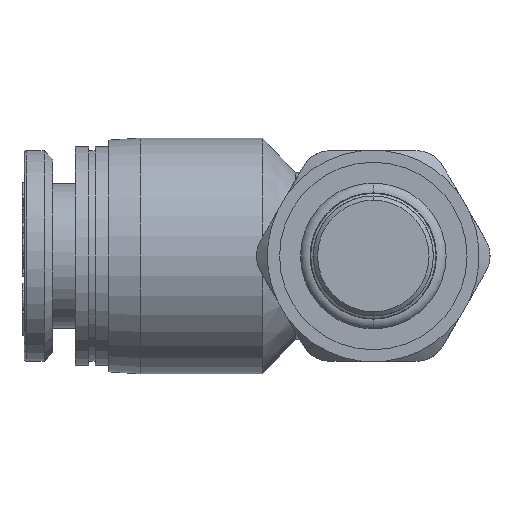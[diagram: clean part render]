
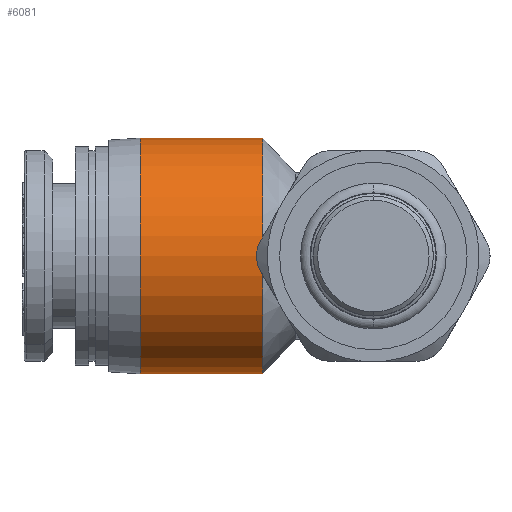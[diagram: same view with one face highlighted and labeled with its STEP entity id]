
A CAD part, front view. The second image highlights one B-rep face of the part: STEP entity #6081.
In plain terms, the highlighted cylindrical face has radius 5.6 mm (diameter 11.2 mm), a partial arc.
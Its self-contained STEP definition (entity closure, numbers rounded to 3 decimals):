
#61 = CARTESIAN_POINT ( 'NONE',  ( 5.8, 0., -5.6 ) ) ;
#285 = DIRECTION ( 'NONE',  ( -1., 0., 0. ) ) ;
#516 = EDGE_CURVE ( 'NONE', #691, #5740, #764, .T. ) ;
#519 = EDGE_CURVE ( 'NONE', #6969, #2885, #6622, .T. ) ;
#691 = VERTEX_POINT ( 'NONE', #61 ) ;
#714 = CARTESIAN_POINT ( 'NONE',  ( -3.1, 0., 0. ) ) ;
#764 = CIRCLE ( 'NONE', #6136, 5.6 ) ;
#846 = ORIENTED_EDGE ( 'NONE', *, *, #4118, .F. ) ;
#1041 = VECTOR ( 'NONE', #1175, 1000. ) ;
#1175 = DIRECTION ( 'NONE',  ( -1., 0., 0. ) ) ;
#1343 = FACE_OUTER_BOUND ( 'NONE', #1498, .T. ) ;
#1498 = EDGE_LOOP ( 'NONE', ( #846, #5614, #7011, #2809 ) ) ;
#1533 = CYLINDRICAL_SURFACE ( 'NONE', #6769, 5.6 ) ;
#1558 = CARTESIAN_POINT ( 'NONE',  ( 5.8, 0., 0. ) ) ;
#2361 = EDGE_CURVE ( 'NONE', #5740, #2885, #7194, .T. ) ;
#2809 = ORIENTED_EDGE ( 'NONE', *, *, #519, .F. ) ;
#2812 = CARTESIAN_POINT ( 'NONE',  ( 0., 0., 0. ) ) ;
#2885 = VERTEX_POINT ( 'NONE', #6170 ) ;
#3959 = DIRECTION ( 'NONE',  ( 0., 0., 1. ) ) ;
#4118 = EDGE_CURVE ( 'NONE', #691, #6969, #4183, .T. ) ;
#4183 = LINE ( 'NONE', #6565, #1041 ) ;
#4279 = CARTESIAN_POINT ( 'NONE',  ( 0., 0., -5.6 ) ) ;
#4337 = DIRECTION ( 'NONE',  ( 0., 0., 1. ) ) ;
#4554 = CARTESIAN_POINT ( 'NONE',  ( 5.8, 0., 5.6 ) ) ;
#4912 = DIRECTION ( 'NONE',  ( -1., 0., 0. ) ) ;
#4984 = DIRECTION ( 'NONE',  ( -1., 0., 0. ) ) ;
#5614 = ORIENTED_EDGE ( 'NONE', *, *, #516, .T. ) ;
#5619 = VECTOR ( 'NONE', #4984, 1000. ) ;
#5716 = DIRECTION ( 'NONE',  ( -1., 0., 0. ) ) ;
#5740 = VERTEX_POINT ( 'NONE', #4554 ) ;
#6081 = ADVANCED_FACE ( 'NONE', ( #1343 ), #1533, .T. ) ;
#6136 = AXIS2_PLACEMENT_3D ( 'NONE', #1558, #5716, #3959 ) ;
#6170 = CARTESIAN_POINT ( 'NONE',  ( 0., 0., 5.6 ) ) ;
#6547 = AXIS2_PLACEMENT_3D ( 'NONE', #2812, #285, #7585 ) ;
#6565 = CARTESIAN_POINT ( 'NONE',  ( -3.1, 0., -5.6 ) ) ;
#6622 = CIRCLE ( 'NONE', #6547, 5.6 ) ;
#6766 = CARTESIAN_POINT ( 'NONE',  ( -3.1, 0., 5.6 ) ) ;
#6769 = AXIS2_PLACEMENT_3D ( 'NONE', #714, #4912, #4337 ) ;
#6969 = VERTEX_POINT ( 'NONE', #4279 ) ;
#7011 = ORIENTED_EDGE ( 'NONE', *, *, #2361, .T. ) ;
#7194 = LINE ( 'NONE', #6766, #5619 ) ;
#7585 = DIRECTION ( 'NONE',  ( 0., 0., 1. ) ) ;
